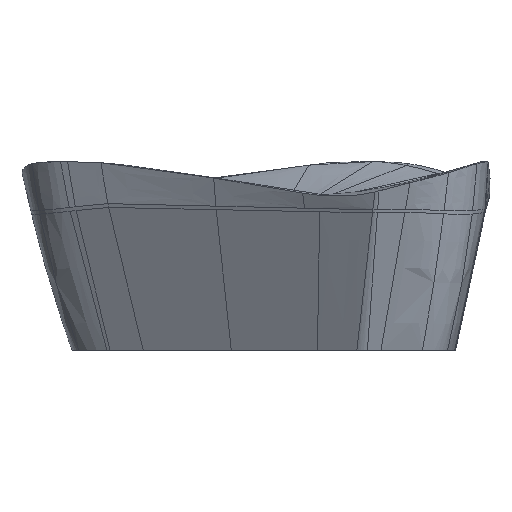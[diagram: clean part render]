
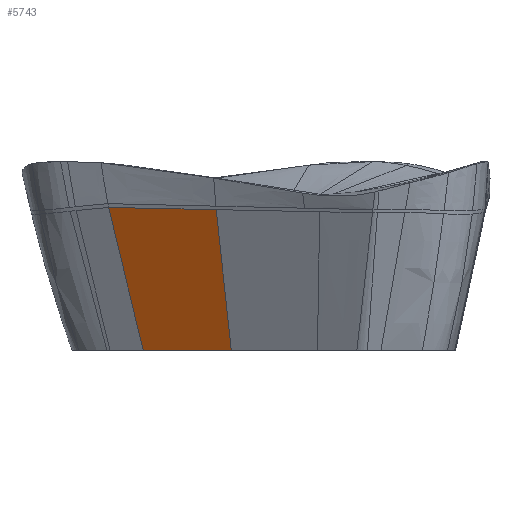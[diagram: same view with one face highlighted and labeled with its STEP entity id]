
A CAD part, left-side view. The second image highlights one B-rep face of the part: STEP entity #5743.
In plain terms, the highlighted free-form (B-spline) face has degree [5, 5] with [6, 6] control points.
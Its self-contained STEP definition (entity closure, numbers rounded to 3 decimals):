
#3676=CARTESIAN_POINT('Vertex',(-2.642,1.525,0.)) ;
#3679=CARTESIAN_POINT('Line Origine',(-2.117,2.425,0.)) ;
#3683=CARTESIAN_POINT('Vertex',(-1.592,3.326,0.)) ;
#5658=CARTESIAN_POINT('Control Point',(-1.592,3.326,0.)) ;
#5659=CARTESIAN_POINT('Control Point',(-1.654,3.468,0.585)) ;
#5660=CARTESIAN_POINT('Control Point',(-1.717,3.61,1.17)) ;
#5661=CARTESIAN_POINT('Control Point',(-1.779,3.751,1.755)) ;
#5662=CARTESIAN_POINT('Control Point',(-1.842,3.893,2.34)) ;
#5663=CARTESIAN_POINT('Control Point',(-1.905,4.035,2.925)) ;
#5664=CARTESIAN_POINT('Vertex',(-1.905,4.035,2.925)) ;
#5683=CARTESIAN_POINT('Control Point',(-1.57,3.277,-0.2)) ;
#5684=CARTESIAN_POINT('Control Point',(-1.637,3.429,0.425)) ;
#5685=CARTESIAN_POINT('Control Point',(-1.704,3.58,1.05)) ;
#5686=CARTESIAN_POINT('Control Point',(-1.771,3.732,1.675)) ;
#5687=CARTESIAN_POINT('Control Point',(-1.838,3.884,2.3)) ;
#5688=CARTESIAN_POINT('Control Point',(-1.905,4.035,2.925)) ;
#5689=CARTESIAN_POINT('Control Point',(-1.777,2.922,-0.2)) ;
#5690=CARTESIAN_POINT('Control Point',(-1.844,3.074,0.425)) ;
#5691=CARTESIAN_POINT('Control Point',(-1.925,3.2,1.047)) ;
#5692=CARTESIAN_POINT('Control Point',(-2.011,3.318,1.669)) ;
#5693=CARTESIAN_POINT('Control Point',(-2.092,3.444,2.291)) ;
#5694=CARTESIAN_POINT('Control Point',(-2.159,3.596,2.916)) ;
#5695=CARTESIAN_POINT('Control Point',(-1.983,2.569,-0.2)) ;
#5696=CARTESIAN_POINT('Control Point',(-2.064,2.695,0.422)) ;
#5697=CARTESIAN_POINT('Control Point',(-2.153,2.807,1.043)) ;
#5698=CARTESIAN_POINT('Control Point',(-2.244,2.915,1.664)) ;
#5699=CARTESIAN_POINT('Control Point',(-2.333,3.027,2.285)) ;
#5700=CARTESIAN_POINT('Control Point',(-2.414,3.153,2.907)) ;
#5701=CARTESIAN_POINT('Control Point',(-2.192,2.211,-0.2)) ;
#5702=CARTESIAN_POINT('Control Point',(-2.292,2.303,0.419)) ;
#5703=CARTESIAN_POINT('Control Point',(-2.384,2.409,1.039)) ;
#5704=CARTESIAN_POINT('Control Point',(-2.474,2.519,1.659)) ;
#5705=CARTESIAN_POINT('Control Point',(-2.566,2.625,2.28)) ;
#5706=CARTESIAN_POINT('Control Point',(-2.667,2.717,2.898)) ;
#5707=CARTESIAN_POINT('Control Point',(-2.397,1.86,-0.2)) ;
#5708=CARTESIAN_POINT('Control Point',(-2.511,1.926,0.416)) ;
#5709=CARTESIAN_POINT('Control Point',(-2.612,2.017,1.035)) ;
#5710=CARTESIAN_POINT('Control Point',(-2.708,2.116,1.654)) ;
#5711=CARTESIAN_POINT('Control Point',(-2.809,2.207,2.273)) ;
#5712=CARTESIAN_POINT('Control Point',(-2.923,2.273,2.889)) ;
#5713=CARTESIAN_POINT('Control Point',(-2.605,1.503,-0.2)) ;
#5714=CARTESIAN_POINT('Control Point',(-2.719,1.569,0.416)) ;
#5715=CARTESIAN_POINT('Control Point',(-2.833,1.636,1.032)) ;
#5716=CARTESIAN_POINT('Control Point',(-2.948,1.702,1.648)) ;
#5717=CARTESIAN_POINT('Control Point',(-3.062,1.768,2.264)) ;
#5718=CARTESIAN_POINT('Control Point',(-3.177,1.835,2.88)) ;
#5720=CARTESIAN_POINT('Control Point',(-2.642,1.525,0.)) ;
#5721=CARTESIAN_POINT('Control Point',(-2.749,1.587,0.576)) ;
#5722=CARTESIAN_POINT('Control Point',(-2.856,1.649,1.152)) ;
#5723=CARTESIAN_POINT('Control Point',(-2.963,1.711,1.728)) ;
#5724=CARTESIAN_POINT('Control Point',(-3.07,1.773,2.304)) ;
#5725=CARTESIAN_POINT('Control Point',(-3.177,1.835,2.88)) ;
#5726=CARTESIAN_POINT('Vertex',(-3.177,1.834,2.88)) ;
#5730=CARTESIAN_POINT('Control Point',(-1.905,4.035,2.925)) ;
#5731=CARTESIAN_POINT('Control Point',(-2.159,3.596,2.916)) ;
#5732=CARTESIAN_POINT('Control Point',(-2.414,3.153,2.907)) ;
#5733=CARTESIAN_POINT('Control Point',(-2.667,2.717,2.898)) ;
#5734=CARTESIAN_POINT('Control Point',(-2.923,2.273,2.889)) ;
#5735=CARTESIAN_POINT('Control Point',(-3.177,1.835,2.88)) ;
#3680=DIRECTION('Vector Direction',(0.504,0.864,0.)) ;
#3681=VECTOR('Line Direction',#3680,1.) ;
#5738=ORIENTED_EDGE('',*,*,#5728,.T.) ;
#5739=ORIENTED_EDGE('',*,*,#5736,.F.) ;
#5740=ORIENTED_EDGE('',*,*,#5666,.F.) ;
#5741=ORIENTED_EDGE('',*,*,#3685,.F.) ;
#5743=ADVANCED_FACE('CUT',(#5742),#5682,.T.) ;
#5657=B_SPLINE_CURVE_WITH_KNOTS('',5,(#5658,#5659,#5660,#5661,#5662,#5663),.UNSPECIFIED.,.F.,.U.,(6,6),(0.205,3.21),.UNSPECIFIED.) ;
#5719=B_SPLINE_CURVE_WITH_KNOTS('',5,(#5720,#5721,#5722,#5723,#5724,#5725),.UNSPECIFIED.,.F.,.U.,(6,6),(0.207,3.187),.UNSPECIFIED.) ;
#5729=B_SPLINE_CURVE_WITH_KNOTS('',5,(#5730,#5731,#5732,#5733,#5734,#5735),.UNSPECIFIED.,.F.,.U.,(6,6),(11.957,14.255),.UNSPECIFIED.) ;
#5682=B_SPLINE_SURFACE_WITH_KNOTS('',5,5,((#5683,#5684,#5685,#5686,#5687,#5688),(#5689,#5690,#5691,#5692,#5693,#5694),(#5695,#5696,#5697,#5698,#5699,#5700),(#5701,#5702,#5703,#5704,#5705,#5706),(#5707,#5708,#5709,#5710,#5711,#5712),(#5713,#5714,#5715,#5716,#5717,#5718)),.UNSPECIFIED.,.F.,.F.,.U.,(6,6),(6,6),(11.957,14.255),(0.,3.187),.UNSPECIFIED.) ;
#3685=EDGE_CURVE('',#3677,#3684,#3682,.T.) ;
#5666=EDGE_CURVE('',#3684,#5665,#5657,.T.) ;
#5728=EDGE_CURVE('',#3677,#5727,#5719,.T.) ;
#5736=EDGE_CURVE('',#5665,#5727,#5729,.T.) ;
#5737=EDGE_LOOP('',(#5738,#5739,#5740,#5741)) ;
#5742=FACE_OUTER_BOUND('',#5737,.T.) ;
#3682=LINE('Line',#3679,#3681) ;
#3677=VERTEX_POINT('',#3676) ;
#3684=VERTEX_POINT('',#3683) ;
#5665=VERTEX_POINT('',#5664) ;
#5727=VERTEX_POINT('',#5726) ;
